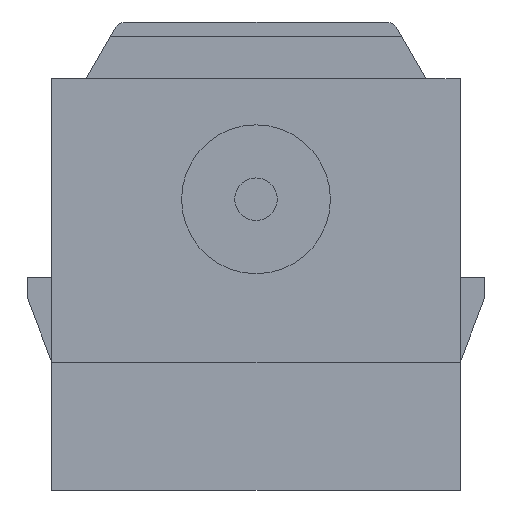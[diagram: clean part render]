
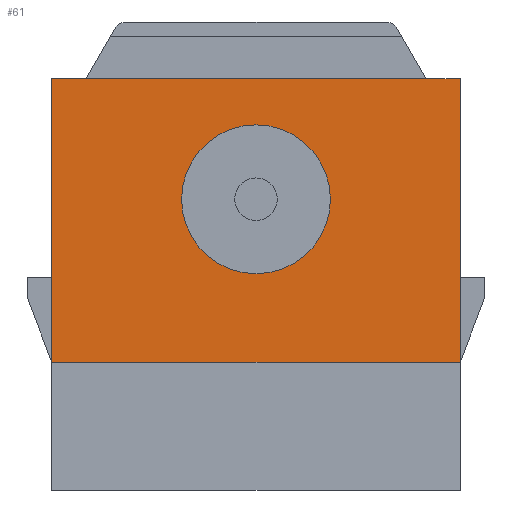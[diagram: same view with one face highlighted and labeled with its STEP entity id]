
A CAD part, front view. The second image highlights one B-rep face of the part: STEP entity #61.
In plain terms, the highlighted planar face has unit normal (0, -1, 0).
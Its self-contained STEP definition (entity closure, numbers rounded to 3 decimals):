
#23 = DIRECTION ( 'NONE',  ( 0., -1., 0. ) ) ;
#32 = ORIENTED_EDGE ( 'NONE', *, *, #567, .F. ) ;
#51 = CARTESIAN_POINT ( 'NONE',  ( -14.4, -21.05, 69.8 ) ) ;
#61 = ADVANCED_FACE ( 'NONE', ( #1576, #1910 ), #86, .T. ) ;
#86 = PLANE ( 'NONE',  #1446 ) ;
#117 = DIRECTION ( 'NONE',  ( 0., -1., 0. ) ) ;
#126 = CARTESIAN_POINT ( 'NONE',  ( 14.4, -21.05, 60.8 ) ) ;
#132 = EDGE_CURVE ( 'NONE', #1563, #1100, #868, .T. ) ;
#180 = VECTOR ( 'NONE', #386, 1000. ) ;
#182 = VECTOR ( 'NONE', #580, 1000. ) ;
#235 = VECTOR ( 'NONE', #1976, 1000. ) ;
#306 = ORIENTED_EDGE ( 'NONE', *, *, #1065, .F. ) ;
#333 = VERTEX_POINT ( 'NONE', #1805 ) ;
#341 = ORIENTED_EDGE ( 'NONE', *, *, #896, .F. ) ;
#386 = DIRECTION ( 'NONE',  ( 0., 0., 1. ) ) ;
#441 = DIRECTION ( 'NONE',  ( 1., 0., 0. ) ) ;
#516 = CARTESIAN_POINT ( 'NONE',  ( 11.963, -21.05, 89.8 ) ) ;
#557 = VERTEX_POINT ( 'NONE', #1082 ) ;
#567 = EDGE_CURVE ( 'NONE', #557, #963, #629, .T. ) ;
#580 = DIRECTION ( 'NONE',  ( 1., 0., 0. ) ) ;
#618 = DIRECTION ( 'NONE',  ( 0., 0., -1. ) ) ;
#629 = LINE ( 'NONE', #1384, #182 ) ;
#643 = DIRECTION ( 'NONE',  ( 0., -1., 0. ) ) ;
#670 = EDGE_CURVE ( 'NONE', #333, #1952, #1317, .T. ) ;
#690 = CARTESIAN_POINT ( 'NONE',  ( 0., -21.05, 81.3 ) ) ;
#743 = DIRECTION ( 'NONE',  ( 1., 0., 0. ) ) ;
#766 = ORIENTED_EDGE ( 'NONE', *, *, #1449, .F. ) ;
#788 = ORIENTED_EDGE ( 'NONE', *, *, #670, .F. ) ;
#835 = ORIENTED_EDGE ( 'NONE', *, *, #132, .F. ) ;
#868 = LINE ( 'NONE', #126, #973 ) ;
#879 = CARTESIAN_POINT ( 'NONE',  ( 14.4, -21.05, 69.8 ) ) ;
#896 = EDGE_CURVE ( 'NONE', #1952, #333, #2050, .T. ) ;
#919 = ORIENTED_EDGE ( 'NONE', *, *, #2006, .F. ) ;
#963 = VERTEX_POINT ( 'NONE', #516 ) ;
#973 = VECTOR ( 'NONE', #618, 1000. ) ;
#1006 = AXIS2_PLACEMENT_3D ( 'NONE', #690, #23, #1185 ) ;
#1054 = LINE ( 'NONE', #1545, #180 ) ;
#1065 = EDGE_CURVE ( 'NONE', #1650, #1563, #1541, .T. ) ;
#1082 = CARTESIAN_POINT ( 'NONE',  ( -14.4, -21.05, 89.8 ) ) ;
#1092 = CARTESIAN_POINT ( 'NONE',  ( 11., -21.05, 89.532 ) ) ;
#1100 = VERTEX_POINT ( 'NONE', #879 ) ;
#1109 = AXIS2_PLACEMENT_3D ( 'NONE', #2077, #643, #1250 ) ;
#1185 = DIRECTION ( 'NONE',  ( 1., 0., 0. ) ) ;
#1196 = CARTESIAN_POINT ( 'NONE',  ( 14.4, -21.05, 89.8 ) ) ;
#1250 = DIRECTION ( 'NONE',  ( 1., 0., 0. ) ) ;
#1279 = VERTEX_POINT ( 'NONE', #51 ) ;
#1317 = CIRCLE ( 'NONE', #1109, 5.25 ) ;
#1384 = CARTESIAN_POINT ( 'NONE',  ( -11.963, -21.05, 89.8 ) ) ;
#1446 = AXIS2_PLACEMENT_3D ( 'NONE', #1092, #117, #441 ) ;
#1449 = EDGE_CURVE ( 'NONE', #963, #1650, #1829, .T. ) ;
#1517 = CARTESIAN_POINT ( 'NONE',  ( 11., -21.05, 89.532 ) ) ;
#1541 = LINE ( 'NONE', #1196, #2096 ) ;
#1545 = CARTESIAN_POINT ( 'NONE',  ( -14.4, -21.05, 89.8 ) ) ;
#1563 = VERTEX_POINT ( 'NONE', #1861 ) ;
#1576 = FACE_OUTER_BOUND ( 'NONE', #1954, .T. ) ;
#1647 = CARTESIAN_POINT ( 'NONE',  ( 54.576, -21.05, 69.8 ) ) ;
#1650 = VERTEX_POINT ( 'NONE', #1888 ) ;
#1670 = DIRECTION ( 'NONE',  ( 0., 1., 0. ) ) ;
#1805 = CARTESIAN_POINT ( 'NONE',  ( -5.25, -21.05, 81.3 ) ) ;
#1811 = AXIS2_PLACEMENT_3D ( 'NONE', #1517, #1670, #743 ) ;
#1829 = CIRCLE ( 'NONE', #1811, 1. ) ;
#1831 = DIRECTION ( 'NONE',  ( 1., 0., 0.004 ) ) ;
#1861 = CARTESIAN_POINT ( 'NONE',  ( 14.4, -21.05, 89.8 ) ) ;
#1888 = CARTESIAN_POINT ( 'NONE',  ( 11.966, -21.05, 89.791 ) ) ;
#1904 = EDGE_LOOP ( 'NONE', ( #341, #788 ) ) ;
#1910 = FACE_BOUND ( 'NONE', #1904, .T. ) ;
#1912 = ORIENTED_EDGE ( 'NONE', *, *, #2078, .F. ) ;
#1952 = VERTEX_POINT ( 'NONE', #1991 ) ;
#1954 = EDGE_LOOP ( 'NONE', ( #766, #32, #1912, #919, #835, #306 ) ) ;
#1976 = DIRECTION ( 'NONE',  ( -1., 0., 0. ) ) ;
#1991 = CARTESIAN_POINT ( 'NONE',  ( 5.25, -21.05, 81.3 ) ) ;
#2005 = LINE ( 'NONE', #1647, #235 ) ;
#2006 = EDGE_CURVE ( 'NONE', #1100, #1279, #2005, .T. ) ;
#2050 = CIRCLE ( 'NONE', #1006, 5.25 ) ;
#2077 = CARTESIAN_POINT ( 'NONE',  ( 0., -21.05, 81.3 ) ) ;
#2078 = EDGE_CURVE ( 'NONE', #1279, #557, #1054, .T. ) ;
#2096 = VECTOR ( 'NONE', #1831, 1000. ) ;
